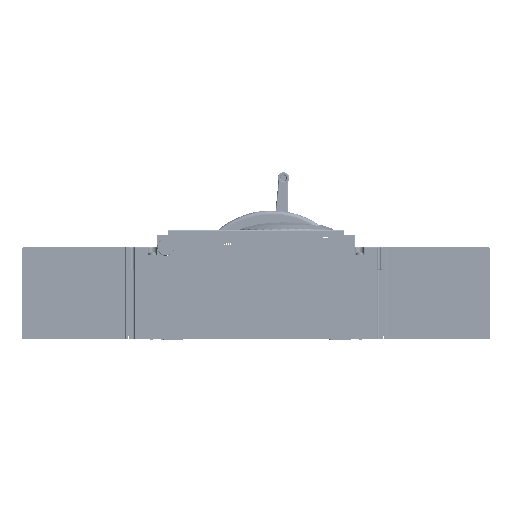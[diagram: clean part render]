
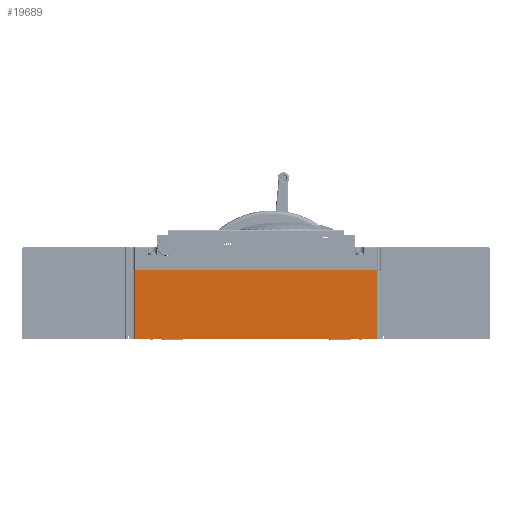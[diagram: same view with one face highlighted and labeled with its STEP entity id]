
A CAD part, front view. The second image highlights one B-rep face of the part: STEP entity #19689.
In plain terms, the highlighted planar face has unit normal (0, -1, 0).
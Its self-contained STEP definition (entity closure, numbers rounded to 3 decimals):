
#19689=ADVANCED_FACE('',(#34160),#26950,.T.);
#26950=PLANE('',#183869);
#34160=FACE_OUTER_BOUND('',#43846,.T.);
#43846=EDGE_LOOP('',(#73796,#73797,#73798,#73799));
#73796=ORIENTED_EDGE('',*,*,#128900,.F.);
#73797=ORIENTED_EDGE('',*,*,#129061,.T.);
#73798=ORIENTED_EDGE('',*,*,#128095,.F.);
#73799=ORIENTED_EDGE('',*,*,#129062,.F.);
#107702=VERTEX_POINT('',#270362);
#107703=VERTEX_POINT('',#270364);
#108365=VERTEX_POINT('',#272042);
#108366=VERTEX_POINT('',#272044);
#128095=EDGE_CURVE('',#107702,#107703,#149003,.T.);
#128900=EDGE_CURVE('',#108365,#108366,#149654,.T.);
#129061=EDGE_CURVE('',#108365,#107703,#149793,.T.);
#129062=EDGE_CURVE('',#108366,#107702,#149794,.T.);
#149003=LINE('',#270363,#165750);
#149654=LINE('',#272043,#166401);
#149793=LINE('',#272351,#166540);
#149794=LINE('',#272352,#166541);
#165750=VECTOR('',#216731,1.);
#166401=VECTOR('',#217906,1.);
#166540=VECTOR('',#218137,1.);
#166541=VECTOR('',#218138,1.);
#183869=AXIS2_PLACEMENT_3D('',#272353,#218139,#218140);
#216731=DIRECTION('',(-1.,0.,0.));
#217906=DIRECTION('',(1.,0.,0.));
#218137=DIRECTION('',(0.,0.,-1.));
#218138=DIRECTION('',(0.,0.,-1.));
#218139=DIRECTION('',(0.,-1.,0.));
#218140=DIRECTION('',(0.,0.,1.));
#270362=CARTESIAN_POINT('',(250.75,44.,0.));
#270363=CARTESIAN_POINT('',(128.5,44.,0.));
#270364=CARTESIAN_POINT('',(6.25,44.,0.));
#272042=CARTESIAN_POINT('',(6.25,44.,70.));
#272043=CARTESIAN_POINT('',(128.5,44.,70.));
#272044=CARTESIAN_POINT('',(250.75,44.,70.));
#272351=CARTESIAN_POINT('',(6.25,44.,70.));
#272352=CARTESIAN_POINT('',(250.75,44.,70.));
#272353=CARTESIAN_POINT('',(128.5,44.,0.));
